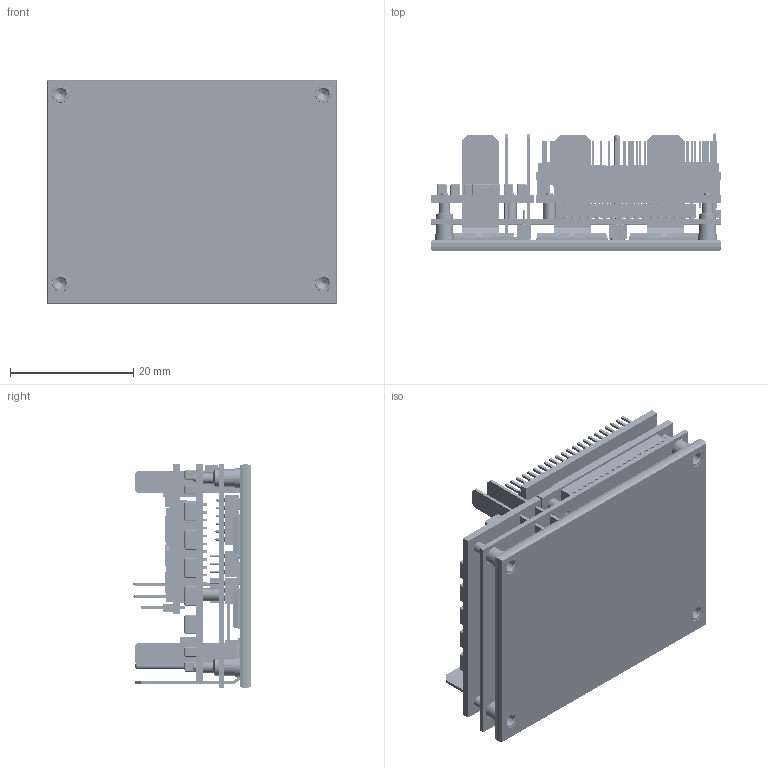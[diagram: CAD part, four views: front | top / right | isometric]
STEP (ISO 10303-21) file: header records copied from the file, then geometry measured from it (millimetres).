
FILE_DESCRIPTION (( 'STEP AP203' ), '1' );
FILE_NAME ('G-TWID ECAT.STEP', '2019-06-10T12:51:29', ( 'user' ), ( 'Microsoft' ), 'SwSTEP 2.0', 'SolidWorks 2018', '' );
FILE_SCHEMA (( 'CONFIG_CONTROL_DESIGN' ));
Products named in the file (1): G-TWID ECAT
Bounding box: 47 x 18.99 x 36.26 mm (x, y, z)
Volume: 9534.3 mm3; surface area: 25646.3 mm2
Topology: 204 solids, 204 shells, 12431 faces, 32067 edges, 20922 vertices
Faces by surface type: plane 7548, bspline 3071, cylinder 1452, sphere 194, cone 118, torus 48
Full cylindrical faces by diameter (mm): 0.406 x46, 0.6 x57, 0.7 x3, 0.8 x132, 0.805 x92, 0.864 x55, 1.02 x1, 1.2 x14, 1.3 x7, 1.6 x4, 1.8 x4, 2 x3, 2.41 x1, 2.54 x1, 2.6 x4, 2.8 x8, 3.1 x4, 3.2 x4, 3.5 x4
Entity records: 528821 total; most frequent: CARTESIAN_POINT 249107, ORIENTED_EDGE 62050, DIRECTION 46402, EDGE_CURVE 31025, LINE 21214, VECTOR 21214, VERTEX_POINT 20711, EDGE_LOOP 14690
